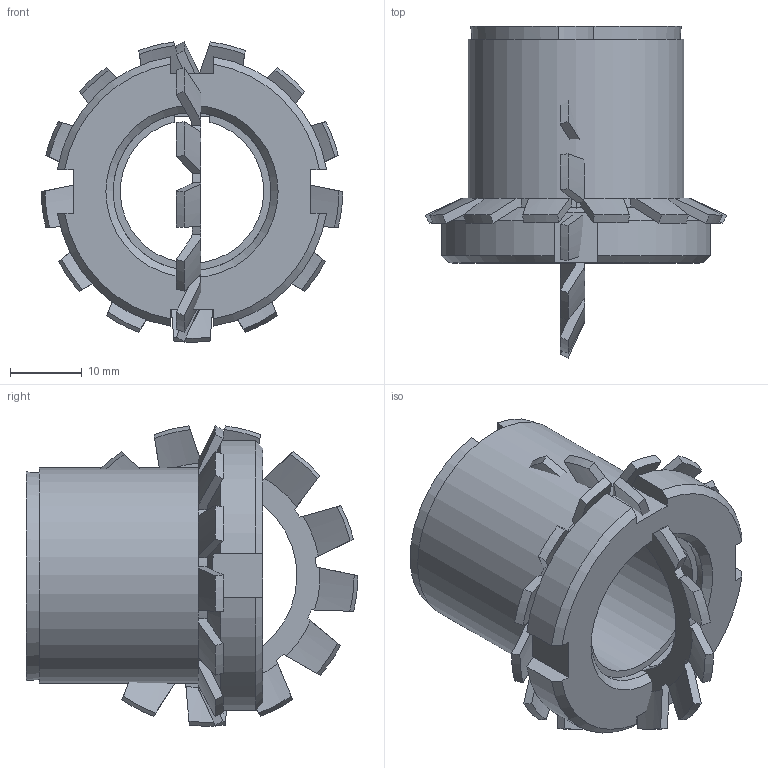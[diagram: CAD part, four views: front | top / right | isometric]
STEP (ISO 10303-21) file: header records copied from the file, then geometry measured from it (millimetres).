
FILE_DESCRIPTION( ( 'Unknown' ), '1' );
FILE_NAME( 'C:/Dokumente und Einstellungen/Sven/Desktop/homepage/cad - homepage/KBS55/KBS 55 - 20 x 30.stp', 'Unknown', ( 'Unknown' ), ( 'Unknown' ), 'XStep 1.0', 'Unknown', ' ' );
FILE_SCHEMA( ( 'automotive_design' ) );
Length unit declared in the file: millimetre
Products named in the file (3): Assem1; KBS 55 - 20 x 30; 08570053_locking_plate_din_5406_mb_5_2_14a
Bounding box: 42 x 46.25 x 41.83 mm (x, y, z)
Volume: 31051.2 mm3; surface area: 17461.1 mm2
Topology: 4 solids, 4 shells, 240 faces, 688 edges, 456 vertices
Faces by surface type: plane 104, cone 94, cylinder 42
Full cylindrical faces by diameter (mm): 22 x2, 30 x2
Entity records: 4268 total; most frequent: CARTESIAN_POINT 879, ORIENTED_EDGE 676, DIRECTION 640, EDGE_CURVE 338, AXIS2_PLACEMENT_3D 253, VERTEX_POINT 226, LINE 134, VECTOR 134
